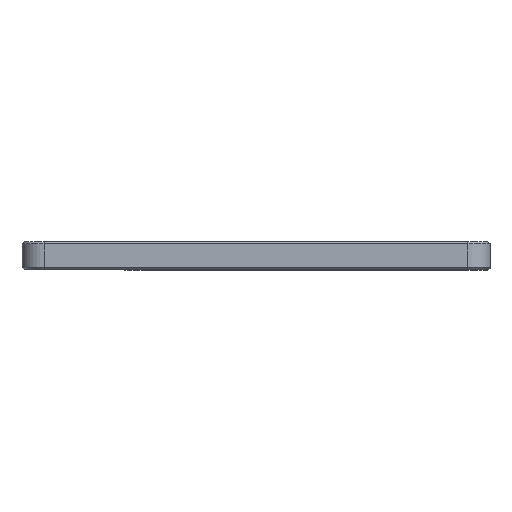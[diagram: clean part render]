
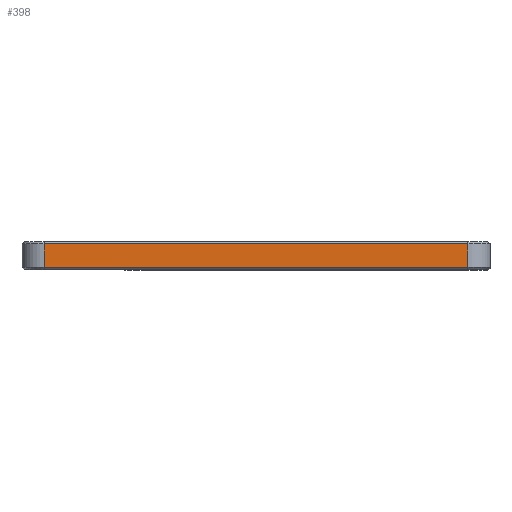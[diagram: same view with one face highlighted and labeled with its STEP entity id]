
A CAD part, top view. The second image highlights one B-rep face of the part: STEP entity #398.
In plain terms, the highlighted planar face has unit normal (0, 0, 1).
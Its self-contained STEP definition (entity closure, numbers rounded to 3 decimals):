
#91 = CARTESIAN_POINT ( 'NONE',  ( -38., 0., 42. ) ) ;
#127 = DIRECTION ( 'NONE',  ( 0., -1., 0. ) ) ;
#190 = VECTOR ( 'NONE', #1228, 1000. ) ;
#223 = FACE_OUTER_BOUND ( 'NONE', #685, .T. ) ;
#250 = ORIENTED_EDGE ( 'NONE', *, *, #1356, .T. ) ;
#365 = VERTEX_POINT ( 'NONE', #1235 ) ;
#398 = ADVANCED_FACE ( 'NONE', ( #223 ), #2156, .F. ) ;
#507 = ORIENTED_EDGE ( 'NONE', *, *, #885, .T. ) ;
#535 = VECTOR ( 'NONE', #3275, 1000. ) ;
#548 = VERTEX_POINT ( 'NONE', #1057 ) ;
#685 = EDGE_LOOP ( 'NONE', ( #250, #777, #507, #1106 ) ) ;
#751 = EDGE_CURVE ( 'NONE', #1474, #365, #3488, .T. ) ;
#777 = ORIENTED_EDGE ( 'NONE', *, *, #751, .T. ) ;
#885 = EDGE_CURVE ( 'NONE', #365, #548, #3231, .T. ) ;
#886 = CARTESIAN_POINT ( 'NONE',  ( -38., 4.6, 42. ) ) ;
#927 = CARTESIAN_POINT ( 'NONE',  ( 0., 0.4, 42. ) ) ;
#938 = LINE ( 'NONE', #886, #2185 ) ;
#1057 = CARTESIAN_POINT ( 'NONE',  ( 38., 4.6, 42. ) ) ;
#1106 = ORIENTED_EDGE ( 'NONE', *, *, #3304, .T. ) ;
#1149 = CARTESIAN_POINT ( 'NONE',  ( -38., 0.4, 42. ) ) ;
#1228 = DIRECTION ( 'NONE',  ( 1., 0., 0. ) ) ;
#1235 = CARTESIAN_POINT ( 'NONE',  ( 38., 0.4, 42. ) ) ;
#1315 = VERTEX_POINT ( 'NONE', #2921 ) ;
#1356 = EDGE_CURVE ( 'NONE', #1315, #1474, #3484, .T. ) ;
#1474 = VERTEX_POINT ( 'NONE', #1149 ) ;
#1625 = DIRECTION ( 'NONE',  ( -1., 0., 0. ) ) ;
#1783 = DIRECTION ( 'NONE',  ( -1., 0., 0. ) ) ;
#1870 = AXIS2_PLACEMENT_3D ( 'NONE', #3309, #2496, #1625 ) ;
#2135 = VECTOR ( 'NONE', #127, 1000. ) ;
#2156 = PLANE ( 'NONE',  #1870 ) ;
#2185 = VECTOR ( 'NONE', #1783, 1000. ) ;
#2376 = CARTESIAN_POINT ( 'NONE',  ( 38., 5., 42. ) ) ;
#2496 = DIRECTION ( 'NONE',  ( 0., 0., -1. ) ) ;
#2921 = CARTESIAN_POINT ( 'NONE',  ( -38., 4.6, 42. ) ) ;
#3231 = LINE ( 'NONE', #2376, #535 ) ;
#3275 = DIRECTION ( 'NONE',  ( 0., 1., 0. ) ) ;
#3304 = EDGE_CURVE ( 'NONE', #548, #1315, #938, .T. ) ;
#3309 = CARTESIAN_POINT ( 'NONE',  ( 0., 5., 42. ) ) ;
#3484 = LINE ( 'NONE', #91, #2135 ) ;
#3488 = LINE ( 'NONE', #927, #190 ) ;
